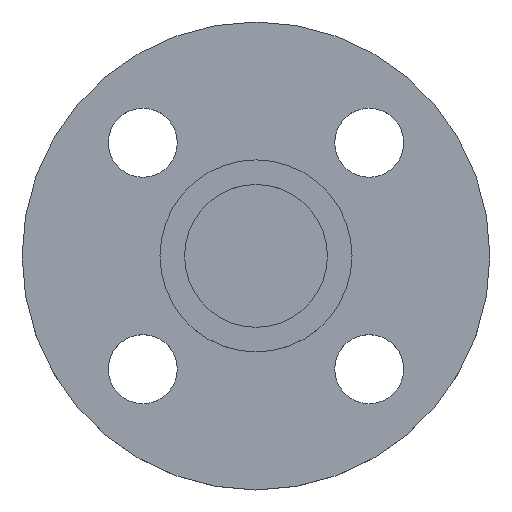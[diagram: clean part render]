
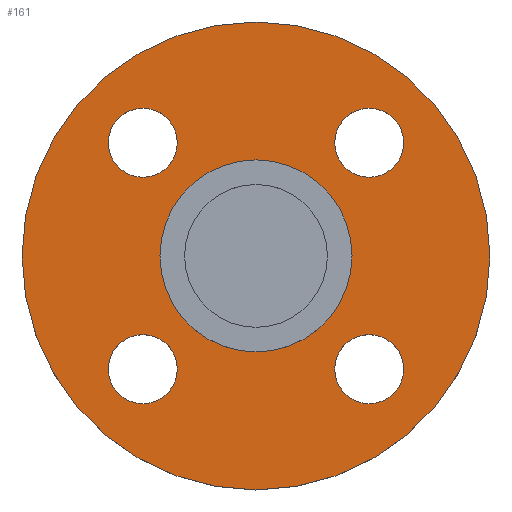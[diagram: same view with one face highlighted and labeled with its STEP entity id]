
A CAD part, top view. The second image highlights one B-rep face of the part: STEP entity #161.
In plain terms, the highlighted planar face has unit normal (0, 0, 1).
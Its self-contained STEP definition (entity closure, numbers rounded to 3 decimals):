
#4 = EDGE_CURVE ( 'NONE', #326, #667, #252, .T. ) ;
#11 = FACE_BOUND ( 'NONE', #385, .T. ) ;
#17 = VERTEX_POINT ( 'NONE', #56 ) ;
#19 = VERTEX_POINT ( 'NONE', #571 ) ;
#20 = EDGE_LOOP ( 'NONE', ( #601, #512 ) ) ;
#26 = EDGE_CURVE ( 'NONE', #147, #534, #403, .T. ) ;
#28 = ORIENTED_EDGE ( 'NONE', *, *, #112, .T. ) ;
#41 = CARTESIAN_POINT ( 'NONE',  ( -22.981, -22.981, -4.5 ) ) ;
#42 = CARTESIAN_POINT ( 'NONE',  ( 15.981, -22.981, -4.5 ) ) ;
#43 = EDGE_CURVE ( 'NONE', #17, #405, #127, .T. ) ;
#45 = DIRECTION ( 'NONE',  ( 0., 0., 1. ) ) ;
#46 = DIRECTION ( 'NONE',  ( 0., 0., -1. ) ) ;
#53 = DIRECTION ( 'NONE',  ( 1., 0., 0. ) ) ;
#56 = CARTESIAN_POINT ( 'NONE',  ( -15.981, 22.981, -4.5 ) ) ;
#90 = FACE_BOUND ( 'NONE', #20, .T. ) ;
#98 = DIRECTION ( 'NONE',  ( 1., 0., 0. ) ) ;
#99 = CARTESIAN_POINT ( 'NONE',  ( 19.5, 0., -4.5 ) ) ;
#103 = FACE_BOUND ( 'NONE', #590, .T. ) ;
#104 = DIRECTION ( 'NONE',  ( 0., 0., -1. ) ) ;
#112 = EDGE_CURVE ( 'NONE', #451, #19, #211, .T. ) ;
#116 = ORIENTED_EDGE ( 'NONE', *, *, #26, .T. ) ;
#124 = CIRCLE ( 'NONE', #159, 7. ) ;
#125 = CIRCLE ( 'NONE', #271, 19.5 ) ;
#127 = CIRCLE ( 'NONE', #332, 7. ) ;
#133 = VERTEX_POINT ( 'NONE', #461 ) ;
#134 = CARTESIAN_POINT ( 'NONE',  ( 19.5, 0., -4.5 ) ) ;
#136 = DIRECTION ( 'NONE',  ( -1., 0., 0. ) ) ;
#147 = VERTEX_POINT ( 'NONE', #42 ) ;
#149 = CARTESIAN_POINT ( 'NONE',  ( -22.981, 22.981, -4.5 ) ) ;
#156 = CARTESIAN_POINT ( 'NONE',  ( 15.981, 22.981, -4.5 ) ) ;
#159 = AXIS2_PLACEMENT_3D ( 'NONE', #41, #46, #53 ) ;
#161 = ADVANCED_FACE ( 'NONE', ( #11, #90, #602, #323, #103, #562 ), #272, .T. ) ;
#162 = DIRECTION ( 'NONE',  ( 0., 0., -1. ) ) ;
#166 = CARTESIAN_POINT ( 'NONE',  ( -29.981, -22.981, -4.5 ) ) ;
#170 = DIRECTION ( 'NONE',  ( 0., 0., -1. ) ) ;
#171 = DIRECTION ( 'NONE',  ( -1., 0., 0. ) ) ;
#176 = CARTESIAN_POINT ( 'NONE',  ( -29.981, 22.981, -4.5 ) ) ;
#180 = CARTESIAN_POINT ( 'NONE',  ( -47.5, 0., -4.5 ) ) ;
#183 = AXIS2_PLACEMENT_3D ( 'NONE', #489, #546, #490 ) ;
#202 = DIRECTION ( 'NONE',  ( 1., 0., 0. ) ) ;
#207 = DIRECTION ( 'NONE',  ( 1., 0., 0. ) ) ;
#209 = CIRCLE ( 'NONE', #543, 7. ) ;
#211 = CIRCLE ( 'NONE', #544, 7. ) ;
#230 = ORIENTED_EDGE ( 'NONE', *, *, #516, .T. ) ;
#235 = CARTESIAN_POINT ( 'NONE',  ( 0., 0., -4.5 ) ) ;
#247 = VERTEX_POINT ( 'NONE', #376 ) ;
#252 = CIRCLE ( 'NONE', #673, 19.5 ) ;
#271 = AXIS2_PLACEMENT_3D ( 'NONE', #707, #162, #493 ) ;
#272 = PLANE ( 'NONE',  #726 ) ;
#280 = CIRCLE ( 'NONE', #183, 7. ) ;
#289 = EDGE_CURVE ( 'NONE', #133, #418, #356, .T. ) ;
#296 = ORIENTED_EDGE ( 'NONE', *, *, #615, .F. ) ;
#301 = EDGE_CURVE ( 'NONE', #534, #147, #280, .T. ) ;
#302 = EDGE_LOOP ( 'NONE', ( #396, #296 ) ) ;
#305 = ORIENTED_EDGE ( 'NONE', *, *, #525, .T. ) ;
#323 = FACE_BOUND ( 'NONE', #487, .T. ) ;
#326 = VERTEX_POINT ( 'NONE', #134 ) ;
#328 = CARTESIAN_POINT ( 'NONE',  ( 22.981, -22.981, -4.5 ) ) ;
#330 = DIRECTION ( 'NONE',  ( 1., 0., 0. ) ) ;
#332 = AXIS2_PLACEMENT_3D ( 'NONE', #149, #661, #207 ) ;
#335 = CIRCLE ( 'NONE', #626, 7. ) ;
#349 = CARTESIAN_POINT ( 'NONE',  ( 0., 0., -4.5 ) ) ;
#350 = ORIENTED_EDGE ( 'NONE', *, *, #4, .T. ) ;
#356 = CIRCLE ( 'NONE', #676, 47.5 ) ;
#359 = EDGE_CURVE ( 'NONE', #247, #401, #124, .T. ) ;
#372 = DIRECTION ( 'NONE',  ( 0., 0., -1. ) ) ;
#376 = CARTESIAN_POINT ( 'NONE',  ( -15.981, -22.981, -4.5 ) ) ;
#385 = EDGE_LOOP ( 'NONE', ( #536, #116 ) ) ;
#389 = AXIS2_PLACEMENT_3D ( 'NONE', #328, #561, #98 ) ;
#396 = ORIENTED_EDGE ( 'NONE', *, *, #289, .F. ) ;
#401 = VERTEX_POINT ( 'NONE', #166 ) ;
#403 = CIRCLE ( 'NONE', #389, 7. ) ;
#405 = VERTEX_POINT ( 'NONE', #176 ) ;
#412 = CARTESIAN_POINT ( 'NONE',  ( 22.981, 22.981, -4.5 ) ) ;
#414 = CIRCLE ( 'NONE', #725, 47.5 ) ;
#418 = VERTEX_POINT ( 'NONE', #180 ) ;
#450 = DIRECTION ( 'NONE',  ( 1., 0., 0. ) ) ;
#451 = VERTEX_POINT ( 'NONE', #156 ) ;
#452 = CARTESIAN_POINT ( 'NONE',  ( -22.981, -22.981, -4.5 ) ) ;
#453 = CARTESIAN_POINT ( 'NONE',  ( 22.981, 22.981, -4.5 ) ) ;
#459 = CARTESIAN_POINT ( 'NONE',  ( 29.981, -22.981, -4.5 ) ) ;
#460 = DIRECTION ( 'NONE',  ( 1., 0., 0. ) ) ;
#461 = CARTESIAN_POINT ( 'NONE',  ( 47.5, 0., -4.5 ) ) ;
#463 = DIRECTION ( 'NONE',  ( 0., 0., -1. ) ) ;
#481 = DIRECTION ( 'NONE',  ( 0., 0., -1. ) ) ;
#487 = EDGE_LOOP ( 'NONE', ( #305, #28 ) ) ;
#489 = CARTESIAN_POINT ( 'NONE',  ( 22.981, -22.981, -4.5 ) ) ;
#490 = DIRECTION ( 'NONE',  ( 1., 0., 0. ) ) ;
#493 = DIRECTION ( 'NONE',  ( -1., 0., 0. ) ) ;
#503 = CARTESIAN_POINT ( 'NONE',  ( -19.5, 0., -4.5 ) ) ;
#512 = ORIENTED_EDGE ( 'NONE', *, *, #728, .T. ) ;
#513 = DIRECTION ( 'NONE',  ( 1., 0., 0. ) ) ;
#516 = EDGE_CURVE ( 'NONE', #405, #17, #335, .T. ) ;
#517 = CARTESIAN_POINT ( 'NONE',  ( -22.981, 22.981, -4.5 ) ) ;
#525 = EDGE_CURVE ( 'NONE', #19, #451, #209, .T. ) ;
#534 = VERTEX_POINT ( 'NONE', #459 ) ;
#536 = ORIENTED_EDGE ( 'NONE', *, *, #301, .T. ) ;
#543 = AXIS2_PLACEMENT_3D ( 'NONE', #453, #481, #513 ) ;
#544 = AXIS2_PLACEMENT_3D ( 'NONE', #412, #463, #202 ) ;
#546 = DIRECTION ( 'NONE',  ( 0., 0., -1. ) ) ;
#547 = CARTESIAN_POINT ( 'NONE',  ( 0., 0., -4.5 ) ) ;
#561 = DIRECTION ( 'NONE',  ( 0., 0., -1. ) ) ;
#562 = FACE_OUTER_BOUND ( 'NONE', #302, .T. ) ;
#571 = CARTESIAN_POINT ( 'NONE',  ( 29.981, 22.981, -4.5 ) ) ;
#577 = DIRECTION ( 'NONE',  ( 0., 0., -1. ) ) ;
#585 = AXIS2_PLACEMENT_3D ( 'NONE', #452, #104, #460 ) ;
#590 = EDGE_LOOP ( 'NONE', ( #704, #350 ) ) ;
#601 = ORIENTED_EDGE ( 'NONE', *, *, #359, .T. ) ;
#602 = FACE_BOUND ( 'NONE', #639, .T. ) ;
#615 = EDGE_CURVE ( 'NONE', #418, #133, #414, .T. ) ;
#626 = AXIS2_PLACEMENT_3D ( 'NONE', #517, #672, #450 ) ;
#632 = DIRECTION ( 'NONE',  ( -1., 0., 0. ) ) ;
#634 = EDGE_CURVE ( 'NONE', #667, #326, #125, .T. ) ;
#639 = EDGE_LOOP ( 'NONE', ( #665, #230 ) ) ;
#661 = DIRECTION ( 'NONE',  ( 0., 0., -1. ) ) ;
#665 = ORIENTED_EDGE ( 'NONE', *, *, #43, .T. ) ;
#667 = VERTEX_POINT ( 'NONE', #503 ) ;
#672 = DIRECTION ( 'NONE',  ( 0., 0., -1. ) ) ;
#673 = AXIS2_PLACEMENT_3D ( 'NONE', #349, #577, #171 ) ;
#676 = AXIS2_PLACEMENT_3D ( 'NONE', #547, #372, #136 ) ;
#686 = CIRCLE ( 'NONE', #585, 7. ) ;
#704 = ORIENTED_EDGE ( 'NONE', *, *, #634, .T. ) ;
#707 = CARTESIAN_POINT ( 'NONE',  ( 0., 0., -4.5 ) ) ;
#725 = AXIS2_PLACEMENT_3D ( 'NONE', #235, #170, #632 ) ;
#726 = AXIS2_PLACEMENT_3D ( 'NONE', #99, #45, #330 ) ;
#728 = EDGE_CURVE ( 'NONE', #401, #247, #686, .T. ) ;
